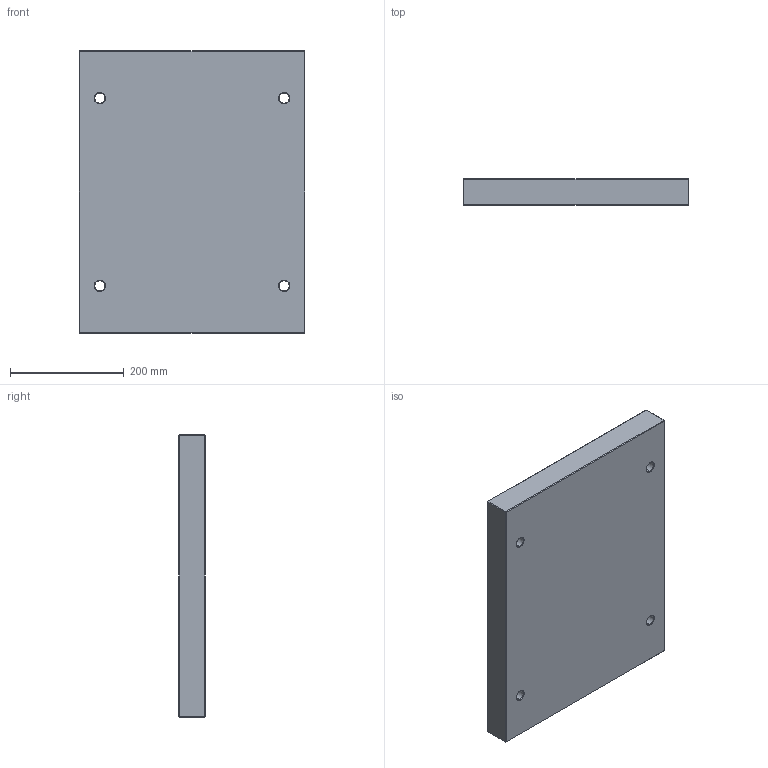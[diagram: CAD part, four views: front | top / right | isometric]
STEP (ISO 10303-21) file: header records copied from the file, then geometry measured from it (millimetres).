
FILE_DESCRIPTION (( 'STEP AP214' ), '1' );
FILE_NAME ('PBAS-396x496x46.STEP', '2020-03-24T15:58:57', ( 'August' ), ( '' ), 'SwSTEP 2.0', 'SolidWorks 2018', '' );
FILE_SCHEMA (( 'AUTOMOTIVE_DESIGN' ));
Length unit declared in the file: millimetre
Products named in the file (1): PBAS-396x496x46
Bounding box: 396 x 46 x 496 mm (x, y, z)
Volume: 8966253.1 mm3; surface area: 482560.4 mm2
Topology: 1 solids, 1 shells, 62 faces, 128 edges, 72 vertices
Faces by surface type: plane 30, cone 16, cylinder 16
Entity records: 1650 total; most frequent: DIRECTION 302, CARTESIAN_POINT 263, ORIENTED_EDGE 256, EDGE_CURVE 128, AXIS2_PLACEMENT_3D 111, VECTOR 80, LINE 80, EDGE_LOOP 74
